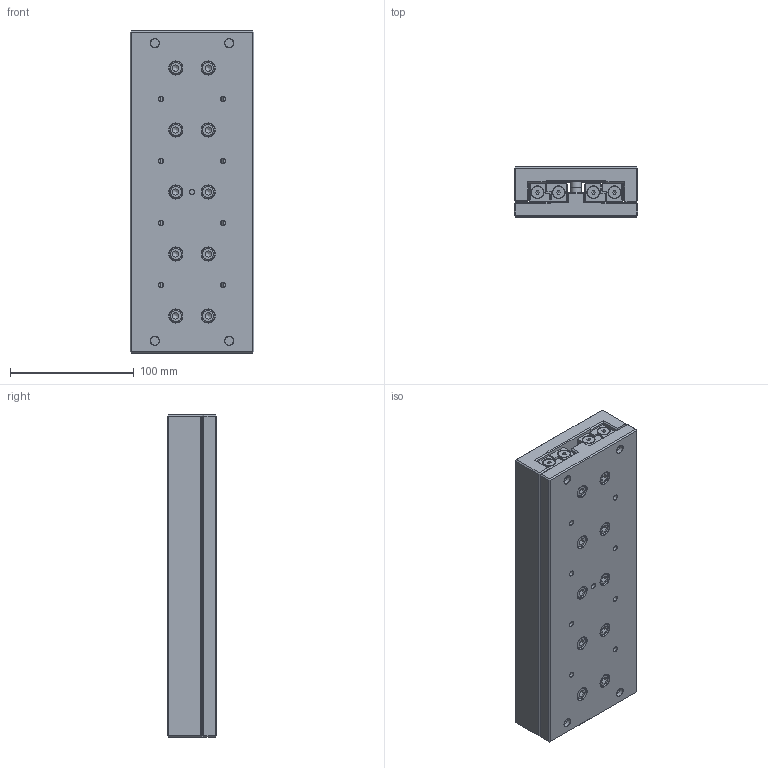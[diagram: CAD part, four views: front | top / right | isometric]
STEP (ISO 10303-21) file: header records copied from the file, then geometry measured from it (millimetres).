
FILE_DESCRIPTION(/* description */ ('Tavola TRL06 L=260 mm'),/* implementation_level */ '2;1');
FILE_NAME(/* name */ 'TRL060260-00.stp',/* time_stamp */ '2024-02-07T08:57:34+01:00',/* author */ ('Rosa sistemi'),/* organization */ (''),/* preprocessor_version */ 'ST-DEVELOPER v20',/* originating_system */ 'Autodesk Inventor 2024',/* authorisation */ '');
FILE_SCHEMA (('AUTOMOTIVE_DESIGN { 1 0 10303 214 3 1 1 }'));
Products named in the file (2): TRL060260-00; TRL060260-00_1
Assembly tree (1 placements, depth 2):
  TRL060260-00
    TRL060260-00_1
Bounding box: 100 x 40 x 260 mm (x, y, z)
Volume: 934776.6 mm3; surface area: 193746.9 mm2
Topology: 10 solids, 10 shells, 1785 faces, 4693 edges, 3048 vertices
Faces by surface type: plane 1142, cylinder 231, bspline 196, cone 173, torus 43
Full cylindrical faces by diameter (mm): 1.548 x5, 4.134 x29, 4.256 x5, 6 x24, 7 x4, 8.5 x3, 9.5 x20, 9.64 x8, 10 x20, 11 x24
Entity records: 56612 total; most frequent: CARTESIAN_POINT 12609, ORIENTED_EDGE 9314, DIRECTION 8144, EDGE_CURVE 4657, VERTEX_POINT 3048, LINE 3002, VECTOR 3002, AXIS2_PLACEMENT_3D 2571
